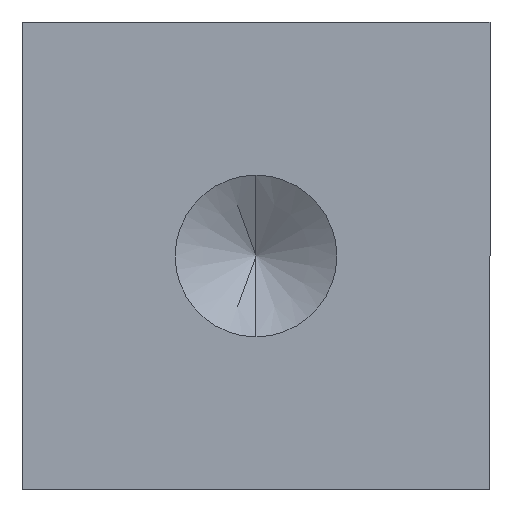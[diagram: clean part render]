
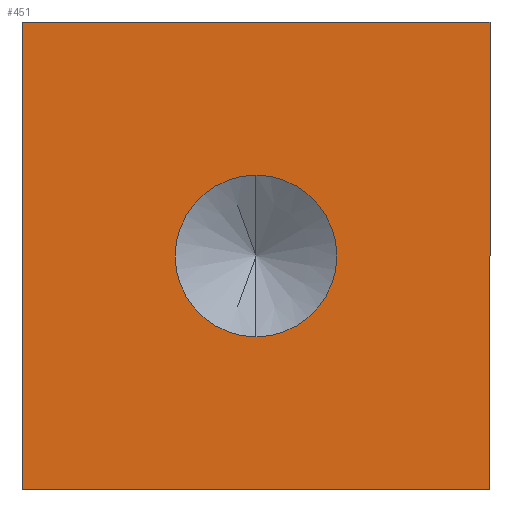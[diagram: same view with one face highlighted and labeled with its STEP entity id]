
A CAD part, front view. The second image highlights one B-rep face of the part: STEP entity #451.
In plain terms, the highlighted planar face has unit normal (0, -1, 0).
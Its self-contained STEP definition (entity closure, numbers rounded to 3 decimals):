
#17 = CARTESIAN_POINT ( 'NONE',  ( 5., 0., -5. ) ) ;
#18 = EDGE_CURVE ( 'NONE', #731, #517, #832, .T. ) ;
#32 = EDGE_LOOP ( 'NONE', ( #695, #333 ) ) ;
#73 = CARTESIAN_POINT ( 'NONE',  ( 0., 0., -1.727 ) ) ;
#132 = LINE ( 'NONE', #997, #278 ) ;
#137 = DIRECTION ( 'NONE',  ( 0., 0., -1. ) ) ;
#144 = DIRECTION ( 'NONE',  ( -1., 0., 0. ) ) ;
#164 = DIRECTION ( 'NONE',  ( 0., 1., 0. ) ) ;
#235 = EDGE_CURVE ( 'NONE', #517, #796, #834, .T. ) ;
#258 = EDGE_CURVE ( 'NONE', #796, #514, #387, .T. ) ;
#278 = VECTOR ( 'NONE', #144, 1000. ) ;
#301 = CIRCLE ( 'NONE', #968, 1.727 ) ;
#323 = VECTOR ( 'NONE', #1024, 1000. ) ;
#333 = ORIENTED_EDGE ( 'NONE', *, *, #981, .F. ) ;
#343 = CARTESIAN_POINT ( 'NONE',  ( -5., 0., -5. ) ) ;
#365 = CARTESIAN_POINT ( 'NONE',  ( -5., 0., 5. ) ) ;
#386 = FACE_BOUND ( 'NONE', #32, .T. ) ;
#387 = LINE ( 'NONE', #761, #527 ) ;
#440 = ORIENTED_EDGE ( 'NONE', *, *, #913, .F. ) ;
#451 = ADVANCED_FACE ( 'NONE', ( #386, #482 ), #655, .F. ) ;
#459 = AXIS2_PLACEMENT_3D ( 'NONE', #1033, #164, #854 ) ;
#482 = FACE_OUTER_BOUND ( 'NONE', #1167, .T. ) ;
#514 = VERTEX_POINT ( 'NONE', #17 ) ;
#517 = VERTEX_POINT ( 'NONE', #1007 ) ;
#527 = VECTOR ( 'NONE', #1046, 1000. ) ;
#613 = CARTESIAN_POINT ( 'NONE',  ( 0., 0., 0. ) ) ;
#655 = PLANE ( 'NONE',  #459 ) ;
#667 = VERTEX_POINT ( 'NONE', #791 ) ;
#695 = ORIENTED_EDGE ( 'NONE', *, *, #1015, .F. ) ;
#698 = DIRECTION ( 'NONE',  ( 0., 0., -1. ) ) ;
#714 = CARTESIAN_POINT ( 'NONE',  ( 5., 0., 5. ) ) ;
#731 = VERTEX_POINT ( 'NONE', #343 ) ;
#761 = CARTESIAN_POINT ( 'NONE',  ( 5., 0., -5. ) ) ;
#791 = CARTESIAN_POINT ( 'NONE',  ( 0., 0., 1.727 ) ) ;
#796 = VERTEX_POINT ( 'NONE', #714 ) ;
#797 = CIRCLE ( 'NONE', #820, 1.727 ) ;
#798 = DIRECTION ( 'NONE',  ( 0., -1., 0. ) ) ;
#820 = AXIS2_PLACEMENT_3D ( 'NONE', #613, #798, #698 ) ;
#832 = LINE ( 'NONE', #926, #1068 ) ;
#834 = LINE ( 'NONE', #365, #323 ) ;
#854 = DIRECTION ( 'NONE',  ( 0., 0., 1. ) ) ;
#864 = VERTEX_POINT ( 'NONE', #73 ) ;
#913 = EDGE_CURVE ( 'NONE', #514, #731, #132, .T. ) ;
#926 = CARTESIAN_POINT ( 'NONE',  ( -5., 0., -5. ) ) ;
#968 = AXIS2_PLACEMENT_3D ( 'NONE', #1075, #989, #137 ) ;
#969 = ORIENTED_EDGE ( 'NONE', *, *, #18, .F. ) ;
#981 = EDGE_CURVE ( 'NONE', #667, #864, #797, .T. ) ;
#989 = DIRECTION ( 'NONE',  ( 0., -1., 0. ) ) ;
#997 = CARTESIAN_POINT ( 'NONE',  ( -5., 0., -5. ) ) ;
#1007 = CARTESIAN_POINT ( 'NONE',  ( -5., 0., 5. ) ) ;
#1015 = EDGE_CURVE ( 'NONE', #864, #667, #301, .T. ) ;
#1024 = DIRECTION ( 'NONE',  ( 1., 0., 0. ) ) ;
#1033 = CARTESIAN_POINT ( 'NONE',  ( 0., 0., 0. ) ) ;
#1046 = DIRECTION ( 'NONE',  ( 0., 0., -1. ) ) ;
#1068 = VECTOR ( 'NONE', #1191, 1000. ) ;
#1075 = CARTESIAN_POINT ( 'NONE',  ( 0., 0., 0. ) ) ;
#1078 = ORIENTED_EDGE ( 'NONE', *, *, #235, .F. ) ;
#1167 = EDGE_LOOP ( 'NONE', ( #1173, #1078, #969, #440 ) ) ;
#1173 = ORIENTED_EDGE ( 'NONE', *, *, #258, .F. ) ;
#1191 = DIRECTION ( 'NONE',  ( 0., 0., 1. ) ) ;
